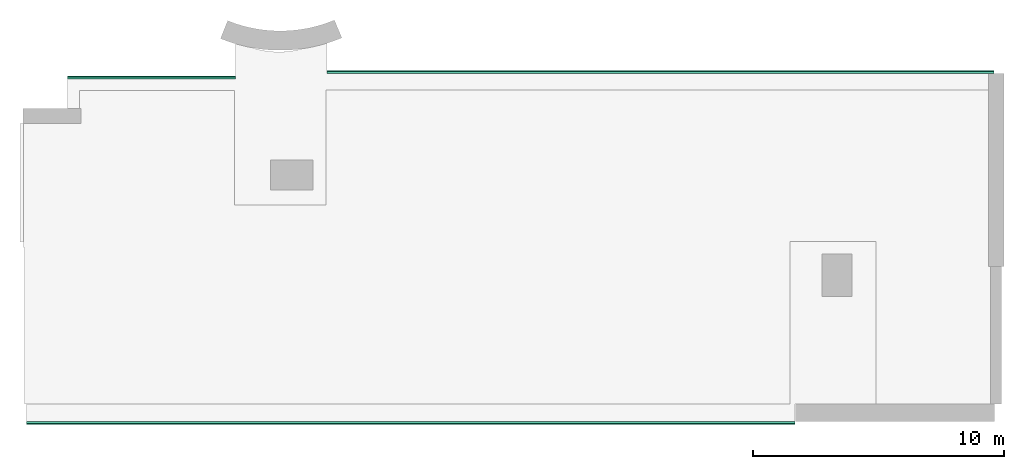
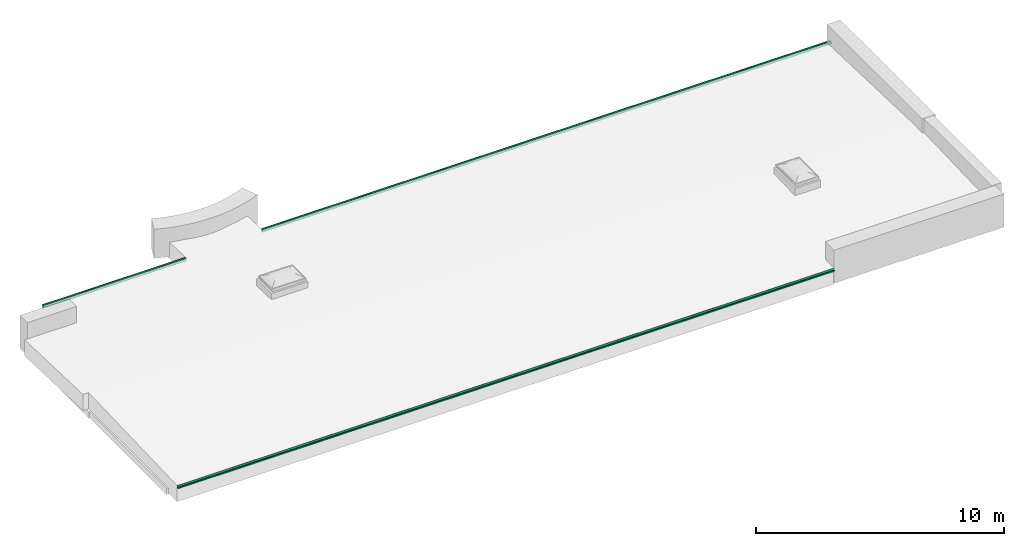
# One storey, part 4 of 4: 1 flow segment.
"""IFC2X3 building model written with IfcOpenShell, lengths in millimetres."""

from ifc_helpers import new_model, entity, si_unit, converted_unit, derived_unit, direction, frame, origin, place, context, subcontext, project, spatial, polyline, outline, extrude, source, transform, mapped, type_object, type_shapes, element, save


model = new_model("IFC2X3")

# Units and contexts
model_context = context("Model", 3, precision=0.01, world=origin(), true_north=direction((6.12303176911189e-17, 1.0)))
body_context = subcontext(model_context, "Body", "Model", "MODEL_VIEW")
ifc_project = project(units=[si_unit("LENGTHUNIT", "METRE", prefix="MILLI"), si_unit("AREAUNIT", "SQUARE_METRE"), si_unit("VOLUMEUNIT", "CUBIC_METRE"), converted_unit("PLANEANGLEUNIT", "DEGREE", entity("IfcRatioMeasure", 0.0174532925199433), si_unit("PLANEANGLEUNIT", "RADIAN"), dimensions=[0, 0, 0, 0, 0, 0, 0]), si_unit("MASSUNIT", "GRAM", prefix="KILO"), derived_unit("MASSDENSITYUNIT", [(si_unit("MASSUNIT", "GRAM", prefix="KILO"), 1), (si_unit("LENGTHUNIT", "METRE"), -3)]), si_unit("TIMEUNIT", "SECOND"), si_unit("FREQUENCYUNIT", "HERTZ"), si_unit("THERMODYNAMICTEMPERATUREUNIT", "DEGREE_CELSIUS"), derived_unit("THERMALTRANSMITTANCEUNIT", [(si_unit("MASSUNIT", "GRAM", prefix="KILO"), 1), (si_unit("THERMODYNAMICTEMPERATUREUNIT", "KELVIN"), -1), (si_unit("TIMEUNIT", "SECOND"), -3)]), derived_unit("VOLUMETRICFLOWRATEUNIT", [(si_unit("LENGTHUNIT", "METRE"), 3), (si_unit("TIMEUNIT", "SECOND"), -1)]), si_unit("ELECTRICCURRENTUNIT", "AMPERE"), si_unit("ELECTRICVOLTAGEUNIT", "VOLT"), si_unit("POWERUNIT", "WATT"), si_unit("FORCEUNIT", "NEWTON", prefix="KILO"), si_unit("ILLUMINANCEUNIT", "LUX"), si_unit("LUMINOUSFLUXUNIT", "LUMEN"), si_unit("LUMINOUSINTENSITYUNIT", "CANDELA"), derived_unit("USERDEFINED", [(si_unit("MASSUNIT", "GRAM", prefix="KILO"), -1), (si_unit("LENGTHUNIT", "METRE"), -2), (si_unit("TIMEUNIT", "SECOND"), 3), (si_unit("LUMINOUSFLUXUNIT", "LUMEN"), 1)]), derived_unit("LINEARVELOCITYUNIT", [(si_unit("LENGTHUNIT", "METRE"), 1), (si_unit("TIMEUNIT", "SECOND"), -1)]), si_unit("PRESSUREUNIT", "PASCAL"), derived_unit("USERDEFINED", [(si_unit("LENGTHUNIT", "METRE"), -2), (si_unit("MASSUNIT", "GRAM", prefix="KILO"), 1), (si_unit("TIMEUNIT", "SECOND"), -2)]), derived_unit("LINEARFORCEUNIT", [(si_unit("MASSUNIT", "GRAM", prefix="KILO"), 1), (si_unit("LENGTHUNIT", "METRE"), 1), (si_unit("TIMEUNIT", "SECOND"), -2), (si_unit("LENGTHUNIT", "METRE"), -1)]), derived_unit("PLANARFORCEUNIT", [(si_unit("MASSUNIT", "GRAM", prefix="KILO"), 1), (si_unit("LENGTHUNIT", "METRE"), 1), (si_unit("TIMEUNIT", "SECOND"), -2), (si_unit("LENGTHUNIT", "METRE"), -2)])], contexts=[model_context])

# Site, building, storey
site_placement = place(None, origin())
site = spatial("IfcSite", under=ifc_project, at=site_placement, Name="Default", CompositionType="ELEMENT")
building_placement = place(site_placement, origin())
building = spatial("IfcBuilding", under=site, at=building_placement, Name="SMA ARH", CompositionType="ELEMENT")
storey_placement = place(building_placement, frame((0.0, 0.0, 13000.0)))
storey = spatial("IfcBuildingStorey", under=building, at=storey_placement, Name="Katus", CompositionType="ELEMENT", Elevation=12999.9999999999)

# Flow segment
pipe_segment_type = type_object("IfcPipeSegmentType", Name="Gutter:Gutter", PredefinedType="GUTTER")
shared_shape = source(origin(), body_context, "Body", "SweptSolid", [
    extrude(outline(polyline([(-78.7908803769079, -78.0625289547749), (46.1213521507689, -78.0625289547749), (46.1213521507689, -74.887528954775), (-75.6158803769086, -74.887528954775), (-75.6158803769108, -6.22482627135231), (23.8963521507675, 31.8751737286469), (23.8963521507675, 43.762471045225), (30.2463521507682, 43.762471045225), (30.2463521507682, 34.2374710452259), (33.4213521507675, 34.2374710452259), (33.4213521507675, 46.937471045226), (20.7213521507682, 46.937471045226), (20.7213521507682, 34.2374710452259), (-78.7908803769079, -3.86252895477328), (-78.7908803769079, -78.0625289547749)])), frame((23.2428498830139, -778.062528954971, 714.366283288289), z_axis=(1.0, 0.0, 0.0), x_axis=(0.0, 0.0, 1.0)), (0.0, 0.0, 1.0), 30623.6581492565),
    extrude(outline(polyline([(-78.0625289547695, -78.7908803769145), (-3.86252895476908, -78.7908803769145), (34.2374710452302, 20.7213521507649), (46.9374710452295, 20.7213521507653), (46.9374710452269, 33.4213521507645), (34.2374710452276, 33.4213521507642), (34.2374710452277, 30.2463521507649), (43.7624710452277, 30.2463521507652), (43.7624710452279, 23.8963521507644), (31.8751737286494, 23.8963521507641), (-6.22482627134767, -75.6158803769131), (-74.8875289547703, -75.6158803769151), (-74.8875289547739, 46.1213521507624), (-78.0625289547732, 46.1213521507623), (-78.0625289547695, -78.7908803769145)])), frame((12003.242849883, 13243.0625289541, 714.366283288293), z_axis=(1.0, 0.0, 0.0), x_axis=(0.0, 1.0, 0.0)), (0.0, 0.0, 1.0), 26570.0000000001),
    extrude(outline(polyline([(-78.0625289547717, -78.7908803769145), (-3.86252895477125, -78.7908803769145), (34.237471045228, 20.7213521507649), (46.9374710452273, 20.7213521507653), (46.9374710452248, 33.4213521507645), (34.2374710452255, 33.4213521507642), (34.2374710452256, 30.2463521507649), (43.7624710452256, 30.2463521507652), (43.7624710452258, 23.8963521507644), (31.8751737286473, 23.8963521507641), (-6.22482627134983, -75.6158803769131), (-74.8875289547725, -75.6158803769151), (-74.8875289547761, 46.1213521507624), (-78.0625289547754, 46.1213521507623), (-78.0625289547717, -78.7908803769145)])), frame((1668.24284988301, 13024.2655718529, 722.006841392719), z_axis=(1.0, 0.0, 0.0), x_axis=(0.0, 1.0, 0.0)), (0.0, 0.0, 1.0), 6685.00000000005),
])
type_shapes(pipe_segment_type, [shared_shape])
flow_segment_placement = place(storey_placement, origin())
element("IfcFlowSegment", 1, at=flow_segment_placement, inside=storey, type_object=pipe_segment_type, Name="Gutter:Gutter", ObjectType="Gutter:Gutter", context=body_context, shape_type="MappedRepresentation", body=[
    mapped(shared_shape, transform((0.0, 0.0, 0.0), scale=1.0)),
])

save(model, "model.ifc")
